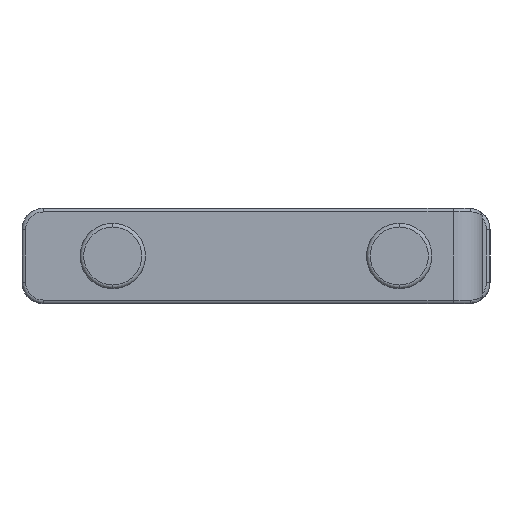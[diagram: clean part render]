
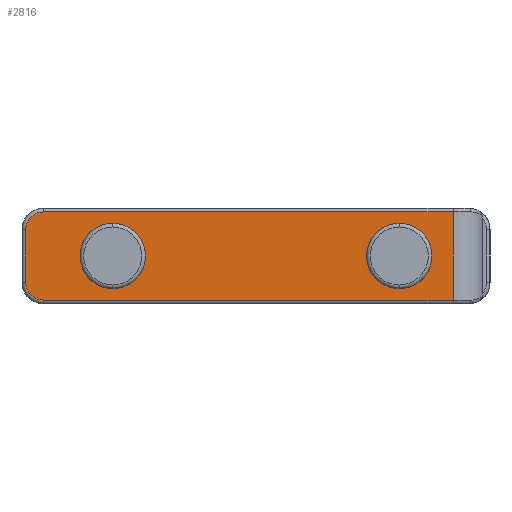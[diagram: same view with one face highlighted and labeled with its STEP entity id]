
A CAD part, left-side view. The second image highlights one B-rep face of the part: STEP entity #2816.
In plain terms, the highlighted planar face has unit normal (-1, 0, 0).
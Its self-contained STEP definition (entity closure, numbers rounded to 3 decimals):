
#969 = DIRECTION ( 'NONE',  ( 0., 0., -1. ) ) ;
#970 = CARTESIAN_POINT ( 'NONE',  ( -183.2, 31.35, -3.6 ) ) ;
#971 = LINE ( 'NONE', #970, #1088 ) ;
#972 = DIRECTION ( 'NONE',  ( 0., 0., -1. ) ) ;
#973 = DIRECTION ( 'NONE',  ( -1., 0., 0. ) ) ;
#974 = CARTESIAN_POINT ( 'NONE',  ( -183.2, -19.5, 0. ) ) ;
#975 = AXIS2_PLACEMENT_3D ( 'NONE', #974, #973, #972 ) ;
#976 = CIRCLE ( 'NONE', #975, 4.45 ) ;
#1069 = CARTESIAN_POINT ( 'NONE',  ( -183.2, -19.5, 4.45 ) ) ;
#1070 = CARTESIAN_POINT ( 'NONE',  ( -183.2, -19.5, -4.45 ) ) ;
#1086 = CARTESIAN_POINT ( 'NONE',  ( -183.2, 28.95, -6. ) ) ;
#1087 = CARTESIAN_POINT ( 'NONE',  ( -183.2, 31.35, -3.6 ) ) ;
#1088 = VECTOR ( 'NONE', #969, 1000. ) ;
#1105 = CIRCLE ( 'NONE', #1172, 4.45 ) ;
#1123 = CARTESIAN_POINT ( 'NONE',  ( -183.2, 28.95, 6. ) ) ;
#1124 = DIRECTION ( 'NONE',  ( 0., 1., 0. ) ) ;
#1125 = VECTOR ( 'NONE', #1124, 1000. ) ;
#1126 = CARTESIAN_POINT ( 'NONE',  ( -183.2, 28.95, 6. ) ) ;
#1127 = LINE ( 'NONE', #1126, #1125 ) ;
#1133 = CARTESIAN_POINT ( 'NONE',  ( -183.2, -26.82, -6. ) ) ;
#1134 = CARTESIAN_POINT ( 'NONE',  ( -183.2, -26.82, 6. ) ) ;
#1135 = DIRECTION ( 'NONE',  ( 0., 0., -1. ) ) ;
#1136 = VECTOR ( 'NONE', #1135, 1000. ) ;
#1137 = CARTESIAN_POINT ( 'NONE',  ( -183.2, -26.82, -7.5 ) ) ;
#1138 = LINE ( 'NONE', #1137, #1136 ) ;
#1169 = DIRECTION ( 'NONE',  ( 0., 0., -1. ) ) ;
#1170 = DIRECTION ( 'NONE',  ( -1., 0., 0. ) ) ;
#1171 = CARTESIAN_POINT ( 'NONE',  ( -183.2, 19.5, 0. ) ) ;
#1172 = AXIS2_PLACEMENT_3D ( 'NONE', #1171, #1170, #1169 ) ;
#1258 = DIRECTION ( 'NONE',  ( 0., -1., 0. ) ) ;
#1260 = VECTOR ( 'NONE', #1258, 1000. ) ;
#1261 = CARTESIAN_POINT ( 'NONE',  ( -183.2, -26.82, -6. ) ) ;
#1269 = LINE ( 'NONE', #1261, #1260 ) ;
#1338 = CARTESIAN_POINT ( 'NONE',  ( -183.2, 19.5, 4.45 ) ) ;
#1387 = CARTESIAN_POINT ( 'NONE',  ( -183.2, 19.5, -4.45 ) ) ;
#1388 = DIRECTION ( 'NONE',  ( 0., 0., -1. ) ) ;
#1389 = DIRECTION ( 'NONE',  ( -1., 0., 0. ) ) ;
#1391 = CARTESIAN_POINT ( 'NONE',  ( -183.2, 19.5, 0. ) ) ;
#1393 = AXIS2_PLACEMENT_3D ( 'NONE', #1391, #1389, #1388 ) ;
#1394 = CIRCLE ( 'NONE', #1393, 4.45 ) ;
#1443 = DIRECTION ( 'NONE',  ( 0., 0., -1. ) ) ;
#1445 = DIRECTION ( 'NONE',  ( -1., 0., 0. ) ) ;
#1446 = CARTESIAN_POINT ( 'NONE',  ( -183.2, -19.5, 0. ) ) ;
#1447 = AXIS2_PLACEMENT_3D ( 'NONE', #1446, #1445, #1443 ) ;
#1448 = CIRCLE ( 'NONE', #1447, 4.45 ) ;
#1529 = CARTESIAN_POINT ( 'NONE',  ( -183.2, 31.35, 3.6 ) ) ;
#1532 = DIRECTION ( 'NONE',  ( 0., 0., -1. ) ) ;
#1534 = DIRECTION ( 'NONE',  ( -1., 0., 0. ) ) ;
#1535 = CARTESIAN_POINT ( 'NONE',  ( -183.2, 28.95, 3.6 ) ) ;
#1536 = AXIS2_PLACEMENT_3D ( 'NONE', #1535, #1534, #1532 ) ;
#1537 = CIRCLE ( 'NONE', #1536, 2.4 ) ;
#1579 = DIRECTION ( 'NONE',  ( 0., 0., -1. ) ) ;
#1580 = DIRECTION ( 'NONE',  ( 1., 0., 0. ) ) ;
#1582 = CARTESIAN_POINT ( 'NONE',  ( -183.2, -27.9, -2.9 ) ) ;
#1583 = AXIS2_PLACEMENT_3D ( 'NONE', #1582, #1580, #1579 ) ;
#1587 = PLANE ( 'NONE',  #1583 ) ;
#1589 = FACE_BOUND ( 'NONE', #1991, .T. ) ;
#1590 = FACE_OUTER_BOUND ( 'NONE', #2056, .T. ) ;
#1591 = FACE_BOUND ( 'NONE', #2996, .T. ) ;
#1633 = DIRECTION ( 'NONE',  ( 0., 0., -1. ) ) ;
#1634 = DIRECTION ( 'NONE',  ( -1., 0., 0. ) ) ;
#1635 = CARTESIAN_POINT ( 'NONE',  ( -183.2, 28.95, -3.6 ) ) ;
#1637 = AXIS2_PLACEMENT_3D ( 'NONE', #1635, #1634, #1633 ) ;
#1638 = CIRCLE ( 'NONE', #1637, 2.4 ) ;
#1991 = EDGE_LOOP ( 'NONE', ( #1992, #2812 ) ) ;
#1992 = ORIENTED_EDGE ( 'NONE', *, *, #1993, .F. ) ;
#1993 = EDGE_CURVE ( 'NONE', #2013, #2014, #976, .T. ) ;
#2002 = ORIENTED_EDGE ( 'NONE', *, *, #2003, .T. ) ;
#2003 = EDGE_CURVE ( 'NONE', #2173, #2004, #971, .T. ) ;
#2004 = VERTEX_POINT ( 'NONE', #1087 ) ;
#2005 = VERTEX_POINT ( 'NONE', #1086 ) ;
#2013 = VERTEX_POINT ( 'NONE', #1070 ) ;
#2014 = VERTEX_POINT ( 'NONE', #1069 ) ;
#2021 = ORIENTED_EDGE ( 'NONE', *, *, #2054, .F. ) ;
#2022 = EDGE_CURVE ( 'NONE', #2023, #2024, #1138, .T. ) ;
#2023 = VERTEX_POINT ( 'NONE', #1134 ) ;
#2024 = VERTEX_POINT ( 'NONE', #1133 ) ;
#2037 = ORIENTED_EDGE ( 'NONE', *, *, #2040, .T. ) ;
#2040 = EDGE_CURVE ( 'NONE', #2023, #2042, #1127, .T. ) ;
#2042 = VERTEX_POINT ( 'NONE', #1123 ) ;
#2044 = ORIENTED_EDGE ( 'NONE', *, *, #2172, .T. ) ;
#2054 = EDGE_CURVE ( 'NONE', #2137, #2120, #1105, .T. ) ;
#2056 = EDGE_LOOP ( 'NONE', ( #2835, #2037, #2044, #2002, #2822, #2820 ) ) ;
#2114 = EDGE_CURVE ( 'NONE', #2005, #2024, #1269, .T. ) ;
#2120 = VERTEX_POINT ( 'NONE', #1338 ) ;
#2136 = EDGE_CURVE ( 'NONE', #2120, #2137, #1394, .T. ) ;
#2137 = VERTEX_POINT ( 'NONE', #1387 ) ;
#2145 = EDGE_CURVE ( 'NONE', #2014, #2013, #1448, .T. ) ;
#2172 = EDGE_CURVE ( 'NONE', #2042, #2173, #1537, .T. ) ;
#2173 = VERTEX_POINT ( 'NONE', #1529 ) ;
#2812 = ORIENTED_EDGE ( 'NONE', *, *, #2145, .F. ) ;
#2816 = ADVANCED_FACE ( 'NONE', ( #1591, #1590, #1589 ), #1587, .F. ) ;
#2820 = ORIENTED_EDGE ( 'NONE', *, *, #2114, .T. ) ;
#2822 = ORIENTED_EDGE ( 'NONE', *, *, #2838, .T. ) ;
#2835 = ORIENTED_EDGE ( 'NONE', *, *, #2022, .F. ) ;
#2837 = ORIENTED_EDGE ( 'NONE', *, *, #2136, .F. ) ;
#2838 = EDGE_CURVE ( 'NONE', #2004, #2005, #1638, .T. ) ;
#2996 = EDGE_LOOP ( 'NONE', ( #2021, #2837 ) ) ;
